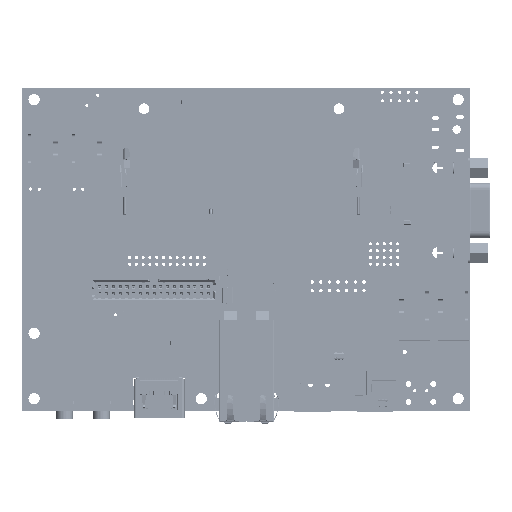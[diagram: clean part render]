
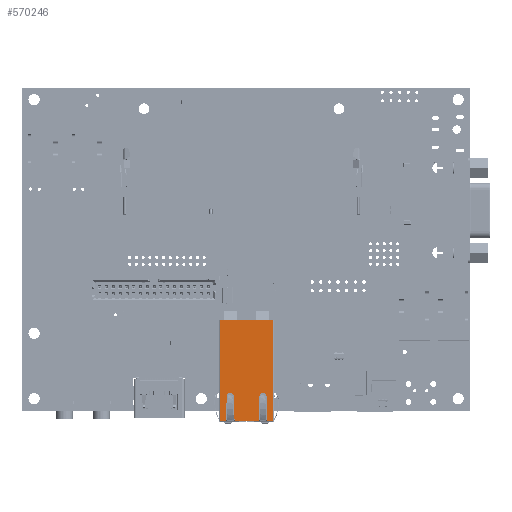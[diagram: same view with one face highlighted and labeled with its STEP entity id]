
A CAD part, top view. The second image highlights one B-rep face of the part: STEP entity #570246.
In plain terms, the highlighted planar face has unit normal (0, 0, 1).
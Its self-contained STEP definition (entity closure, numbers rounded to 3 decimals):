
#570246 = ADVANCED_FACE('',(#570247,#570297,#570350),#570403,.T.);
#570247 = FACE_BOUND('',#570248,.F.);
#570248 = EDGE_LOOP('',(#570249,#570259,#570267,#570275,#570283,#570291)
  );
#570249 = ORIENTED_EDGE('',*,*,#570250,.F.);
#570250 = EDGE_CURVE('',#570251,#570253,#570255,.T.);
#570251 = VERTEX_POINT('',#570252);
#570252 = CARTESIAN_POINT('',(74.092,26.873,
    13.573));
#570253 = VERTEX_POINT('',#570254);
#570254 = CARTESIAN_POINT('',(58.293,26.873,
    13.573));
#570255 = LINE('',#570256,#570257);
#570256 = CARTESIAN_POINT('',(74.092,26.873,
    13.573));
#570257 = VECTOR('',#570258,1.);
#570258 = DIRECTION('',(-1.,0.,0.));
#570259 = ORIENTED_EDGE('',*,*,#570260,.F.);
#570260 = EDGE_CURVE('',#570261,#570251,#570263,.T.);
#570261 = VERTEX_POINT('',#570262);
#570262 = CARTESIAN_POINT('',(74.092,-3.099,
    13.573));
#570263 = LINE('',#570264,#570265);
#570264 = CARTESIAN_POINT('',(74.092,-3.099,
    13.573));
#570265 = VECTOR('',#570266,1.);
#570266 = DIRECTION('',(0.,1.,0.));
#570267 = ORIENTED_EDGE('',*,*,#570268,.F.);
#570268 = EDGE_CURVE('',#570269,#570261,#570271,.T.);
#570269 = VERTEX_POINT('',#570270);
#570270 = CARTESIAN_POINT('',(68.351,-3.099,
    13.573));
#570271 = LINE('',#570272,#570273);
#570272 = CARTESIAN_POINT('',(68.351,-3.099,
    13.573));
#570273 = VECTOR('',#570274,1.);
#570274 = DIRECTION('',(1.,0.,0.));
#570275 = ORIENTED_EDGE('',*,*,#570276,.F.);
#570276 = EDGE_CURVE('',#570277,#570269,#570279,.T.);
#570277 = VERTEX_POINT('',#570278);
#570278 = CARTESIAN_POINT('',(64.033,-3.099,
    13.573));
#570279 = LINE('',#570280,#570281);
#570280 = CARTESIAN_POINT('',(64.033,-3.099,
    13.573));
#570281 = VECTOR('',#570282,1.);
#570282 = DIRECTION('',(1.,0.,0.));
#570283 = ORIENTED_EDGE('',*,*,#570284,.F.);
#570284 = EDGE_CURVE('',#570285,#570277,#570287,.T.);
#570285 = VERTEX_POINT('',#570286);
#570286 = CARTESIAN_POINT('',(58.293,-3.099,
    13.573));
#570287 = LINE('',#570288,#570289);
#570288 = CARTESIAN_POINT('',(58.293,-3.099,
    13.573));
#570289 = VECTOR('',#570290,1.);
#570290 = DIRECTION('',(1.,0.,0.));
#570291 = ORIENTED_EDGE('',*,*,#570292,.F.);
#570292 = EDGE_CURVE('',#570253,#570285,#570293,.T.);
#570293 = LINE('',#570294,#570295);
#570294 = CARTESIAN_POINT('',(58.293,26.873,
    13.573));
#570295 = VECTOR('',#570296,1.);
#570296 = DIRECTION('',(0.,-1.,0.));
#570297 = FACE_BOUND('',#570298,.F.);
#570298 = EDGE_LOOP('',(#570299,#570310,#570318,#570327,#570335,#570344)
  );
#570299 = ORIENTED_EDGE('',*,*,#570300,.F.);
#570300 = EDGE_CURVE('',#570301,#570303,#570305,.T.);
#570301 = VERTEX_POINT('',#570302);
#570302 = CARTESIAN_POINT('',(69.993,-2.893,
    13.573));
#570303 = VERTEX_POINT('',#570304);
#570304 = CARTESIAN_POINT('',(69.748,-2.845,
    13.573));
#570305 = CIRCLE('',#570306,0.127);
#570306 = AXIS2_PLACEMENT_3D('',#570307,#570308,#570309);
#570307 = CARTESIAN_POINT('',(69.875,-2.845,
    13.573));
#570308 = DIRECTION('',(0.,0.,-1.));
#570309 = DIRECTION('',(0.926,-0.379,
    0.));
#570310 = ORIENTED_EDGE('',*,*,#570311,.F.);
#570311 = EDGE_CURVE('',#570312,#570301,#570314,.T.);
#570312 = VERTEX_POINT('',#570313);
#570313 = CARTESIAN_POINT('',(72.044,-2.893,
    13.573));
#570314 = LINE('',#570315,#570316);
#570315 = CARTESIAN_POINT('',(72.044,-2.893,
    13.573));
#570316 = VECTOR('',#570317,1.);
#570317 = DIRECTION('',(-1.,0.,0.));
#570318 = ORIENTED_EDGE('',*,*,#570319,.F.);
#570319 = EDGE_CURVE('',#570320,#570312,#570322,.T.);
#570320 = VERTEX_POINT('',#570321);
#570321 = CARTESIAN_POINT('',(72.288,-2.845,
    13.573));
#570322 = CIRCLE('',#570323,0.127);
#570323 = AXIS2_PLACEMENT_3D('',#570324,#570325,#570326);
#570324 = CARTESIAN_POINT('',(72.161,-2.845,
    13.573));
#570325 = DIRECTION('',(0.,0.,-1.));
#570326 = DIRECTION('',(1.,0.,0.));
#570327 = ORIENTED_EDGE('',*,*,#570328,.F.);
#570328 = EDGE_CURVE('',#570329,#570320,#570331,.T.);
#570329 = VERTEX_POINT('',#570330);
#570330 = CARTESIAN_POINT('',(72.059,4.221,
    13.573));
#570331 = LINE('',#570332,#570333);
#570332 = CARTESIAN_POINT('',(72.059,4.221,
    13.573));
#570333 = VECTOR('',#570334,1.);
#570334 = DIRECTION('',(0.032,-0.999,
    0.));
#570335 = ORIENTED_EDGE('',*,*,#570336,.F.);
#570336 = EDGE_CURVE('',#570337,#570329,#570339,.T.);
#570337 = VERTEX_POINT('',#570338);
#570338 = CARTESIAN_POINT('',(69.978,4.221,
    13.573));
#570339 = CIRCLE('',#570340,1.041);
#570340 = AXIS2_PLACEMENT_3D('',#570341,#570342,#570343);
#570341 = CARTESIAN_POINT('',(71.018,4.187,
    13.573));
#570342 = DIRECTION('',(0.,0.,-1.));
#570343 = DIRECTION('',(-0.999,0.032,
    0.));
#570344 = ORIENTED_EDGE('',*,*,#570345,.F.);
#570345 = EDGE_CURVE('',#570303,#570337,#570346,.T.);
#570346 = LINE('',#570347,#570348);
#570347 = CARTESIAN_POINT('',(69.748,-2.845,
    13.573));
#570348 = VECTOR('',#570349,1.);
#570349 = DIRECTION('',(0.032,0.999,
    0.));
#570350 = FACE_BOUND('',#570351,.F.);
#570351 = EDGE_LOOP('',(#570352,#570363,#570371,#570380,#570388,#570397)
  );
#570352 = ORIENTED_EDGE('',*,*,#570353,.F.);
#570353 = EDGE_CURVE('',#570354,#570356,#570358,.T.);
#570354 = VERTEX_POINT('',#570355);
#570355 = CARTESIAN_POINT('',(62.636,-2.845,
    13.573));
#570356 = VERTEX_POINT('',#570357);
#570357 = CARTESIAN_POINT('',(62.392,-2.893,
    13.573));
#570358 = CIRCLE('',#570359,0.127);
#570359 = AXIS2_PLACEMENT_3D('',#570360,#570361,#570362);
#570360 = CARTESIAN_POINT('',(62.509,-2.845,
    13.573));
#570361 = DIRECTION('',(0.,0.,-1.));
#570362 = DIRECTION('',(1.,0.,0.));
#570363 = ORIENTED_EDGE('',*,*,#570364,.F.);
#570364 = EDGE_CURVE('',#570365,#570354,#570367,.T.);
#570365 = VERTEX_POINT('',#570366);
#570366 = CARTESIAN_POINT('',(62.407,4.221,
    13.573));
#570367 = LINE('',#570368,#570369);
#570368 = CARTESIAN_POINT('',(62.407,4.221,
    13.573));
#570369 = VECTOR('',#570370,1.);
#570370 = DIRECTION('',(0.032,-0.999,
    0.));
#570371 = ORIENTED_EDGE('',*,*,#570372,.F.);
#570372 = EDGE_CURVE('',#570373,#570365,#570375,.T.);
#570373 = VERTEX_POINT('',#570374);
#570374 = CARTESIAN_POINT('',(60.326,4.221,
    13.573));
#570375 = CIRCLE('',#570376,1.041);
#570376 = AXIS2_PLACEMENT_3D('',#570377,#570378,#570379);
#570377 = CARTESIAN_POINT('',(61.366,4.187,
    13.573));
#570378 = DIRECTION('',(0.,0.,-1.));
#570379 = DIRECTION('',(-0.999,0.032,
    0.));
#570380 = ORIENTED_EDGE('',*,*,#570381,.F.);
#570381 = EDGE_CURVE('',#570382,#570373,#570384,.T.);
#570382 = VERTEX_POINT('',#570383);
#570383 = CARTESIAN_POINT('',(60.096,-2.845,
    13.573));
#570384 = LINE('',#570385,#570386);
#570385 = CARTESIAN_POINT('',(60.096,-2.845,
    13.573));
#570386 = VECTOR('',#570387,1.);
#570387 = DIRECTION('',(0.032,0.999,
    0.));
#570388 = ORIENTED_EDGE('',*,*,#570389,.F.);
#570389 = EDGE_CURVE('',#570390,#570382,#570392,.T.);
#570390 = VERTEX_POINT('',#570391);
#570391 = CARTESIAN_POINT('',(60.341,-2.893,
    13.573));
#570392 = CIRCLE('',#570393,0.127);
#570393 = AXIS2_PLACEMENT_3D('',#570394,#570395,#570396);
#570394 = CARTESIAN_POINT('',(60.223,-2.845,
    13.573));
#570395 = DIRECTION('',(0.,0.,-1.));
#570396 = DIRECTION('',(0.926,-0.379,
    0.));
#570397 = ORIENTED_EDGE('',*,*,#570398,.F.);
#570398 = EDGE_CURVE('',#570356,#570390,#570399,.T.);
#570399 = LINE('',#570400,#570401);
#570400 = CARTESIAN_POINT('',(62.392,-2.893,
    13.573));
#570401 = VECTOR('',#570402,1.);
#570402 = DIRECTION('',(-1.,0.,0.));
#570403 = PLANE('',#570404);
#570404 = AXIS2_PLACEMENT_3D('',#570405,#570406,#570407);
#570405 = CARTESIAN_POINT('',(66.192,11.887,
    13.573));
#570406 = DIRECTION('',(0.,0.,1.));
#570407 = DIRECTION('',(1.,0.,0.));
